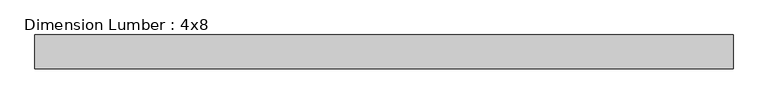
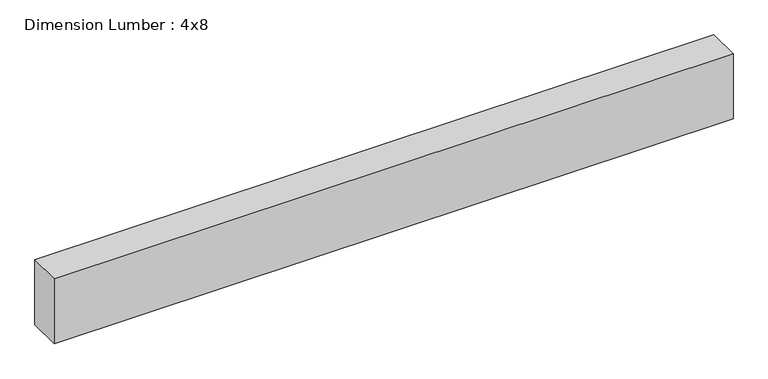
"""IFC4 building model written with IfcOpenShell, lengths in millimetres: beam geometry, Dimension Lumber : 4x8."""

import ifcopenshell
import ifcopenshell.guid

model = None  # the IFC model being written
_history = None  # IfcOwnerHistory: only IFC2X3 demands one
_inside = {}  # id of a spatial element -> (the spatial element, [elements in it])
_under = {}  # id of a project, library or spatial element -> (it, [spatial elements below it])
_declared = {}  # id of a project -> (the project, [libraries it declares])
_typed = {}  # id of a type object -> (the type object, [elements of that type])
_made_of = {}  # id of a material, layer set ... -> (it, [elements and type objects made of it])


def new_model(schema):
    """Start an empty IFC model of exactly this schema.

    Asked for "IFC4X3", IfcOpenShell would pick the latest addendum, in which some entities
    have other attributes; the version numbers below select the first issue.
    IFC2X3 requires an IfcOwnerHistory on every rooted entity: one is made here for all.
    """
    global model, _history
    if schema == "IFC4X3":
        model = ifcopenshell.file(schema_version=(4, 3, 0, 0))
    else:
        model = ifcopenshell.file(schema=schema)
    _inside.clear()
    _under.clear()
    _declared.clear()
    _typed.clear()
    _made_of.clear()
    _history = None
    if model.schema == "IFC2X3":
        org = make("IfcOrganization", Name="unknown")
        user = make(
            "IfcPersonAndOrganization",
            ThePerson=make("IfcPerson", FamilyName="unknown"),
            TheOrganization=org,
        )
        app = make(
            "IfcApplication",
            ApplicationDeveloper=org,
            Version="unknown",
            ApplicationFullName="unknown",
            ApplicationIdentifier="unknown",
        )
        _history = make(
            "IfcOwnerHistory",
            OwningUser=user,
            OwningApplication=app,
            ChangeAction="ADDED",
            CreationDate=0,
        )
    return model


def make(cls, **values):
    """One entity of the class cls with the attributes given. An attribute that is None is left unset."""
    return model.create_entity(
        cls, **{name: value for name, value in values.items() if value is not None}
    )


def rooted(cls, **values):
    """An entity with a GlobalId (a new one), such as an element, a storey or a relation."""
    return make(cls, GlobalId=ifcopenshell.guid.new(), OwnerHistory=_history, **values)


def si_unit(unit_type, name, prefix=None):
    """IfcSIUnit, for example si_unit("LENGTHUNIT", "METRE", prefix="MILLI")."""
    return make("IfcSIUnit", UnitType=unit_type, Prefix=prefix, Name=name)


def assignment(units):
    """IfcUnitAssignment: the units of a project."""
    return None if units is None else make("IfcUnitAssignment", Units=units)


def point(xyz):
    """IfcCartesianPoint."""
    return None if xyz is None else make("IfcCartesianPoint", Coordinates=xyz)


def direction(xyz):
    """IfcDirection."""
    return None if xyz is None else make("IfcDirection", DirectionRatios=xyz)


def frame(location, z_axis=None, x_axis=None):
    """IfcAxis2Placement3D, a coordinate frame: its origin and axes. An axis left out is left unset."""
    return make(
        "IfcAxis2Placement3D",
        Location=point(location),
        Axis=direction(z_axis),
        RefDirection=direction(x_axis),
    )


def origin():
    """The frame at (0, 0, 0) with its axes left unset."""
    return frame((0.0, 0.0, 0.0))


def place(relative_to, where):
    """IfcLocalPlacement: puts the frame where relative to a parent placement (None: the world)."""
    return make(
        "IfcLocalPlacement", PlacementRelTo=relative_to, RelativePlacement=where
    )


def context(
    kind, dimensions, precision=None, world=None, true_north=None, identifier=None
):
    """IfcGeometricRepresentationContext, for example the 3D "Model" context."""
    return make(
        "IfcGeometricRepresentationContext",
        ContextIdentifier=identifier,
        ContextType=kind,
        CoordinateSpaceDimension=dimensions,
        Precision=precision,
        WorldCoordinateSystem=world,
        TrueNorth=true_north,
    )


def project(units=None, contexts=None):
    """IfcProject with its units and contexts."""
    return rooted(
        "IfcProject",
        Name="project",
        RepresentationContexts=contexts,
        UnitsInContext=assignment(units),
    )


def spatial(cls, under=None, at=None, **own):
    """A site, building, storey or space (cls), placed at a placement, below another one or the project."""
    s = rooted(cls, ObjectPlacement=at, **own)
    if under is not None:
        _under.setdefault(under.id(), (under, []))[1].append(s)
    return s


def polyline(points):
    """IfcPolyline through the points."""
    return make("IfcPolyline", Points=[point(p) for p in points])


def outline(outer, holes=None, kind="AREA"):
    """IfcArbitraryClosedProfileDef: a profile drawn as a closed curve; with holes, ...WithVoids."""
    if holes is None:
        return make("IfcArbitraryClosedProfileDef", ProfileType=kind, OuterCurve=outer)
    return make(
        "IfcArbitraryProfileDefWithVoids",
        ProfileType=kind,
        OuterCurve=outer,
        InnerCurves=holes,
    )


def extrude(swept, where, along, depth):
    """IfcExtrudedAreaSolid: the profile swept, set in the frame where, extruded along a direction by depth."""
    return make(
        "IfcExtrudedAreaSolid",
        SweptArea=swept,
        Position=where,
        ExtrudedDirection=direction(along),
        Depth=depth,
    )


def shape(context_of_items, identifier, shape_type, items):
    """IfcShapeRepresentation: the items that make up one representation, for example the "Body"."""
    return make(
        "IfcShapeRepresentation",
        ContextOfItems=context_of_items,
        RepresentationIdentifier=identifier,
        RepresentationType=shape_type,
        Items=items,
    )


def source(mapping_origin, context_of_items, identifier, shape_type, items):
    """IfcRepresentationMap: a shape defined once, which mapped items show again and again."""
    return make(
        "IfcRepresentationMap",
        MappingOrigin=mapping_origin,
        MappedRepresentation=shape(context_of_items, identifier, shape_type, items),
    )


def transform(
    local_origin,
    x_axis=None,
    y_axis=None,
    z_axis=None,
    scale=None,
    scale2=None,
    scale3=None,
    uniform=True,
):
    """IfcCartesianTransformationOperator3D, or its non-uniform kind. x_axis, y_axis, z_axis: its Axis1, 2, 3."""
    if uniform:
        return make(
            "IfcCartesianTransformationOperator3D",
            Axis1=direction(x_axis),
            Axis2=direction(y_axis),
            LocalOrigin=point(local_origin),
            Scale=scale,
            Axis3=direction(z_axis),
        )
    return make(
        "IfcCartesianTransformationOperator3DnonUniform",
        Axis1=direction(x_axis),
        Axis2=direction(y_axis),
        LocalOrigin=point(local_origin),
        Scale=scale,
        Axis3=direction(z_axis),
        Scale2=scale2,
        Scale3=scale3,
    )


def mapped(mapping_source, mapping_target):
    """IfcMappedItem: shows the shape of a source again, moved by a transform."""
    return make(
        "IfcMappedItem", MappingSource=mapping_source, MappingTarget=mapping_target
    )


def made_of(thing, what):
    """Note that an element or type object is made of a material, layer set ...; save() writes the relation."""
    if what is not None:
        _made_of.setdefault(what.id(), (what, []))[1].append(thing)
    return thing


def element(
    cls,
    number,
    at=None,
    inside=None,
    cuts=None,
    type_object=None,
    material=None,
    context=None,
    identifier="Body",
    shape_type=None,
    held_by="IfcProductDefinitionShape",
    body=None,
    shapes=None,
    **own,
):
    """One element of the class cls, such as IfcWall. Its Tag is "e" and its number.

    at: its placement. inside: the storey or other place that contains it. cuts: it is an
    opening in that element (IfcRelVoidsElement). A single representation is given by context,
    identifier, shape_type and body (its items); several are given by shapes. held_by: the class
    of the entity that holds the representations. save() writes the other relations.
    """
    e = rooted(cls, Tag="e%d" % number, ObjectPlacement=at, **own)
    if body is not None:
        shapes = [shape(context, identifier, shape_type, body)]
    if shapes is not None:
        e.Representation = make(held_by, Representations=shapes)
    if inside is not None:
        _inside.setdefault(inside.id(), (inside, []))[1].append(e)
    if cuts is not None:
        rooted(
            "IfcRelVoidsElement", RelatingBuildingElement=cuts, RelatedOpeningElement=e
        )
    if type_object is not None:
        _typed.setdefault(type_object.id(), (type_object, []))[1].append(e)
    return made_of(e, material)


def aggregate(whole, parts):
    """IfcRelAggregates: a whole, such as a stair, and the parts it consists of."""
    return rooted("IfcRelAggregates", RelatingObject=whole, RelatedObjects=parts)


def save(model, path):
    """Write the relations noted so far, then the file.

    IfcRelAggregates (storeys below a building ...), IfcRelContainedInSpatialStructure (elements
    in a storey), IfcRelDefinesByType, IfcRelAssociatesMaterial and IfcRelDeclares: one each for
    every whole, place, type object, material and project.
    """
    for whole, parts in _under.values():
        aggregate(whole, parts)
    for where, things in _inside.values():
        rooted(
            "IfcRelContainedInSpatialStructure",
            RelatedElements=things,
            RelatingStructure=where,
        )
    for kind, things in _typed.values():
        rooted("IfcRelDefinesByType", RelatedObjects=things, RelatingType=kind)
    for what, things in _made_of.values():
        rooted("IfcRelAssociatesMaterial", RelatedObjects=things, RelatingMaterial=what)
    for by, libraries in _declared.values():
        rooted("IfcRelDeclares", RelatingContext=by, RelatedDefinitions=libraries)
    model.write(path)


def dimension_lumber_4x8_2aeb25a8(model_context):
    return source(origin(), model_context, "Body", "SweptSolid", [
        extrude(outline(polyline([(933.45, 44.45), (933.45, -44.45), (-889.0, -44.45), (-889.0, 44.45), (933.45, 44.45)])), frame((0.0, 0.0, -92.075), z_axis=(0.0, 0.0, 1.0), x_axis=(1.0, 0.0, 0.0)), (0.0, 0.0, 1.0), 184.15),
    ])


if __name__ == "__main__":
    model = new_model("IFC4")
    model_context = context("Model", 3, world=origin())
    ifc_project = project(units=[si_unit("LENGTHUNIT", "METRE", prefix="MILLI")], contexts=[model_context])
    site = spatial("IfcSite", under=ifc_project)
    building = spatial("IfcBuilding", under=site)
    placement = place(None, origin())
    dimension_lumber_4x8_shape = dimension_lumber_4x8_2aeb25a8(model_context)
    element("IfcBeam", 1, ObjectType="Dimension Lumber : 4x8", at=placement, inside=building, context=model_context, shape_type="MappedRepresentation", body=[
        mapped(dimension_lumber_4x8_shape, transform((0.0, 0.0, 0.0), x_axis=(1.0, 0.0, 0.0), y_axis=(0.0, 1.0, 0.0), z_axis=(0.0, 0.0, 1.0))),
    ])
    save(model, "model.ifc")
